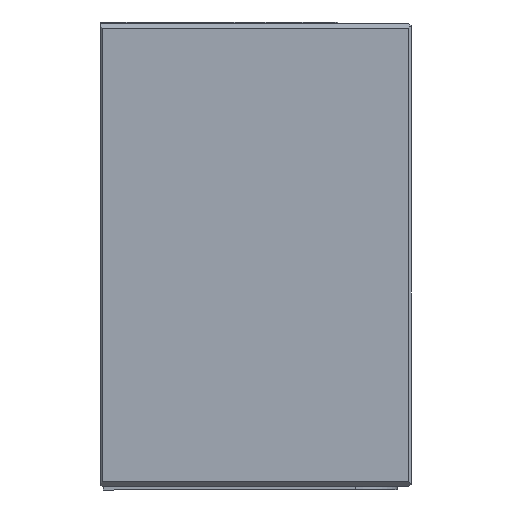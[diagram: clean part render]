
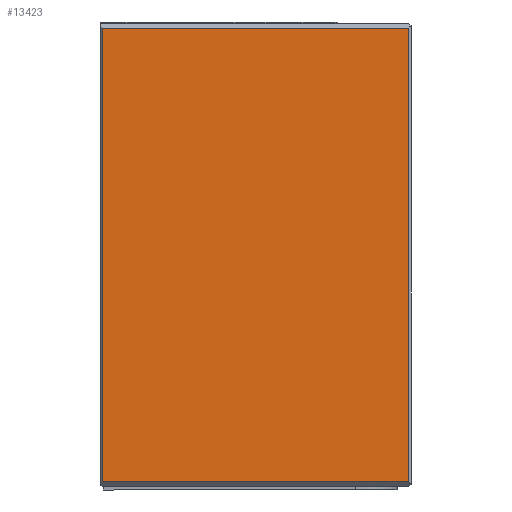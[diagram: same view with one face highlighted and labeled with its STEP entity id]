
A CAD part, left-side view. The second image highlights one B-rep face of the part: STEP entity #13423.
In plain terms, the highlighted planar face has unit normal (-1, 0, 0).
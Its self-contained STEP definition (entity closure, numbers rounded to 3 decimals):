
#726=LINE('',#20281,#1802);
#727=LINE('',#20284,#1803);
#728=LINE('',#20286,#1804);
#729=LINE('',#20288,#1805);
#1802=VECTOR('',#15487,1000.);
#1803=VECTOR('',#15488,1000.);
#1804=VECTOR('',#15489,1000.);
#1805=VECTOR('',#15490,1000.);
#3180=ORIENTED_EDGE('',*,*,#7251,.T.);
#3181=ORIENTED_EDGE('',*,*,#7252,.T.);
#3182=ORIENTED_EDGE('',*,*,#7253,.T.);
#3183=ORIENTED_EDGE('',*,*,#7254,.T.);
#7251=EDGE_CURVE('',#9284,#9285,#726,.T.);
#7252=EDGE_CURVE('',#9285,#9286,#727,.T.);
#7253=EDGE_CURVE('',#9286,#9287,#728,.T.);
#7254=EDGE_CURVE('',#9287,#9284,#729,.T.);
#9284=VERTEX_POINT('',#20282);
#9285=VERTEX_POINT('',#20283);
#9286=VERTEX_POINT('',#20285);
#9287=VERTEX_POINT('',#20287);
#11063=EDGE_LOOP('',(#3180,#3181,#3182,#3183));
#12004=FACE_BOUND('',#11063,.T.);
#12893=PLANE('',#14438);
#13423=ADVANCED_FACE('',(#12004),#12893,.F.);
#14438=AXIS2_PLACEMENT_3D('',#20280,#15485,#15486);
#15485=DIRECTION('',(1.,0.,0.));
#15486=DIRECTION('',(0.,1.,0.));
#15487=DIRECTION('',(0.,1.,0.));
#15488=DIRECTION('',(0.,0.,-1.));
#15489=DIRECTION('',(0.,-1.,0.));
#15490=DIRECTION('',(0.,0.,1.));
#20280=CARTESIAN_POINT('',(-375.,-100.,560.));
#20281=CARTESIAN_POINT('',(-375.,-100.,554.));
#20282=CARTESIAN_POINT('',(-375.,-472.,554.));
#20283=CARTESIAN_POINT('',(-375.,-102.,554.));
#20284=CARTESIAN_POINT('',(-375.,-102.,560.));
#20285=CARTESIAN_POINT('',(-375.,-102.,6.));
#20286=CARTESIAN_POINT('',(-375.,-100.,6.));
#20287=CARTESIAN_POINT('',(-375.,-472.,6.));
#20288=CARTESIAN_POINT('',(-375.,-472.,560.));
